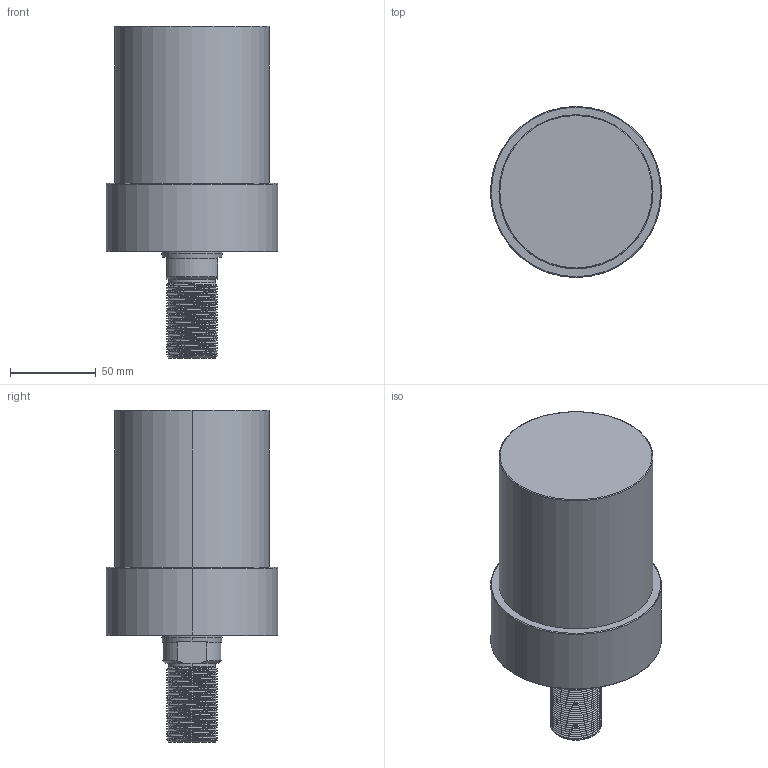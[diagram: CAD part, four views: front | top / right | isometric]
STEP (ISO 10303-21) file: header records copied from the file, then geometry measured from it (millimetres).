
FILE_DESCRIPTION (( 'STEP AP203' ), '1' );
FILE_NAME ('CLLU-090GT-070.STEP', '2020-01-13T03:00:02', ( '' ), ( '' ), 'SwSTEP 2.0', 'SolidWorks 2015', '' );
FILE_SCHEMA (( 'CONFIG_CONTROL_DESIGN' ));
Length unit declared in the file: millimetre
Products named in the file (1): CLLU-090GT-070
Bounding box: 100 x 100 x 194 mm (x, y, z)
Volume: 937849.6 mm3; surface area: 66005.8 mm2
Topology: 1 solids, 1 shells, 123 faces, 321 edges, 201 vertices
Faces by surface type: cylinder 78, cone 26, plane 11, torus 6, bspline 2
Entity records: 7157 total; most frequent: CARTESIAN_POINT 4422, ORIENTED_EDGE 626, DIRECTION 501, EDGE_CURVE 313, VERTEX_POINT 201, AXIS2_PLACEMENT_3D 197, EDGE_LOOP 132, ADVANCED_FACE 123
